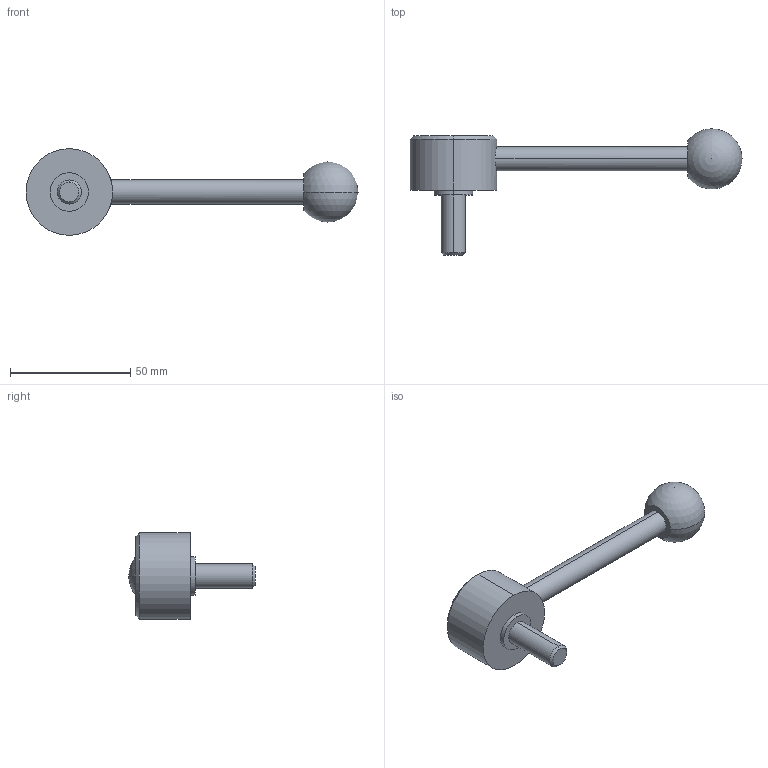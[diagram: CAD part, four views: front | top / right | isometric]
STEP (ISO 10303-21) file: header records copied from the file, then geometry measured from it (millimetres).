
FILE_DESCRIPTION (( 'STEP AP214' ), '1' );
FILE_NAME ('125.5-36-M10-25-D.step', '2020-02-18T11:29:47', ( '' ), ( '' ), 'SwSTEP 2.0', 'SolidWorks 2019', '' );
FILE_SCHEMA (( 'AUTOMOTIVE_DESIGN' ));
Length unit declared in the file: millimetre
Products named in the file (1): 125.5-36-M10-25-D
Bounding box: 138 x 52.5 x 36 mm (x, y, z)
Volume: 39435.6 mm3; surface area: 9651.1 mm2
Topology: 1 solids, 1 shells, 22 faces, 47 edges, 30 vertices
Faces by surface type: cylinder 10, plane 6, cone 4, sphere 2
Entity records: 738 total; most frequent: CARTESIAN_POINT 166, DIRECTION 112, ORIENTED_EDGE 84, AXIS2_PLACEMENT_3D 49, EDGE_CURVE 42, VERTEX_POINT 27, EDGE_LOOP 27, CIRCLE 26
